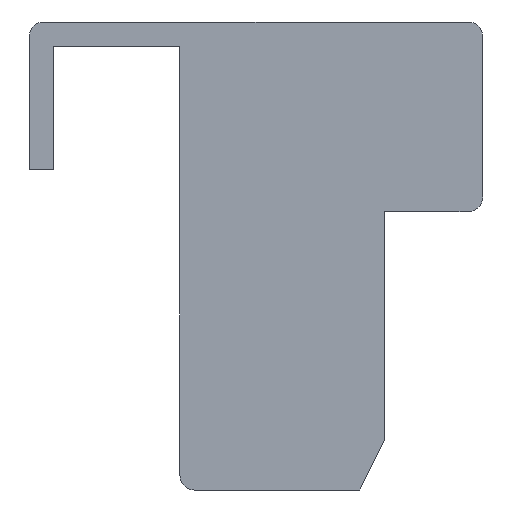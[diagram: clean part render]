
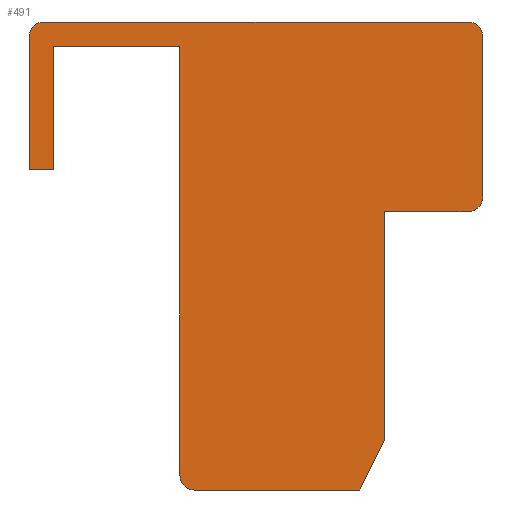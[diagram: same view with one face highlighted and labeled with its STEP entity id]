
A CAD part, left-side view. The second image highlights one B-rep face of the part: STEP entity #491.
In plain terms, the highlighted planar face has unit normal (-1, 0, 0).
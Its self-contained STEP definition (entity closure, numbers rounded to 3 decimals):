
#24=PLANE('',#540);
#48=FACE_OUTER_BOUND('',#76,.T.);
#76=EDGE_LOOP('',(#382,#383,#384,#385,#386,#387,#388,#389,#390,#391,#392,
#393,#394,#395,#396));
#109=LINE('',#735,#166);
#122=LINE('',#770,#179);
#124=LINE('',#774,#181);
#125=LINE('',#775,#182);
#126=LINE('',#777,#183);
#127=LINE('',#781,#184);
#128=LINE('',#785,#185);
#129=LINE('',#787,#186);
#130=LINE('',#789,#187);
#131=LINE('',#791,#188);
#132=LINE('',#792,#189);
#166=VECTOR('',#594,10.);
#179=VECTOR('',#621,10.);
#181=VECTOR('',#625,10.);
#182=VECTOR('',#626,10.);
#183=VECTOR('',#627,10.);
#184=VECTOR('',#630,10.);
#185=VECTOR('',#633,10.);
#186=VECTOR('',#634,10.);
#187=VECTOR('',#635,10.);
#188=VECTOR('',#636,10.);
#189=VECTOR('',#637,10.);
#214=CIRCLE('',#530,3.);
#219=CIRCLE('',#538,3.);
#220=CIRCLE('',#541,3.);
#221=CIRCLE('',#542,3.);
#232=VERTEX_POINT('',#722);
#233=VERTEX_POINT('',#723);
#237=VERTEX_POINT('',#733);
#250=VERTEX_POINT('',#763);
#251=VERTEX_POINT('',#764);
#252=VERTEX_POINT('',#769);
#253=VERTEX_POINT('',#773);
#254=VERTEX_POINT('',#776);
#255=VERTEX_POINT('',#778);
#256=VERTEX_POINT('',#780);
#257=VERTEX_POINT('',#782);
#258=VERTEX_POINT('',#784);
#259=VERTEX_POINT('',#786);
#260=VERTEX_POINT('',#788);
#261=VERTEX_POINT('',#790);
#279=EDGE_CURVE('',#232,#233,#214,.T.);
#285=EDGE_CURVE('',#232,#237,#109,.T.);
#299=EDGE_CURVE('',#250,#251,#219,.T.);
#302=EDGE_CURVE('',#251,#252,#122,.T.);
#304=EDGE_CURVE('',#253,#237,#124,.T.);
#305=EDGE_CURVE('',#252,#253,#125,.T.);
#306=EDGE_CURVE('',#254,#250,#126,.T.);
#307=EDGE_CURVE('',#255,#254,#220,.T.);
#308=EDGE_CURVE('',#256,#255,#127,.T.);
#309=EDGE_CURVE('',#257,#256,#221,.T.);
#310=EDGE_CURVE('',#257,#258,#128,.T.);
#311=EDGE_CURVE('',#259,#258,#129,.T.);
#312=EDGE_CURVE('',#260,#259,#130,.T.);
#313=EDGE_CURVE('',#261,#260,#131,.T.);
#314=EDGE_CURVE('',#233,#261,#132,.T.);
#382=ORIENTED_EDGE('',*,*,#279,.F.);
#383=ORIENTED_EDGE('',*,*,#285,.T.);
#384=ORIENTED_EDGE('',*,*,#304,.F.);
#385=ORIENTED_EDGE('',*,*,#305,.F.);
#386=ORIENTED_EDGE('',*,*,#302,.F.);
#387=ORIENTED_EDGE('',*,*,#299,.F.);
#388=ORIENTED_EDGE('',*,*,#306,.F.);
#389=ORIENTED_EDGE('',*,*,#307,.F.);
#390=ORIENTED_EDGE('',*,*,#308,.F.);
#391=ORIENTED_EDGE('',*,*,#309,.F.);
#392=ORIENTED_EDGE('',*,*,#310,.T.);
#393=ORIENTED_EDGE('',*,*,#311,.F.);
#394=ORIENTED_EDGE('',*,*,#312,.F.);
#395=ORIENTED_EDGE('',*,*,#313,.F.);
#396=ORIENTED_EDGE('',*,*,#314,.F.);
#491=ADVANCED_FACE('',(#48),#24,.T.);
#530=AXIS2_PLACEMENT_3D('',#724,#584,#585);
#538=AXIS2_PLACEMENT_3D('',#765,#615,#616);
#540=AXIS2_PLACEMENT_3D('',#772,#623,#624);
#541=AXIS2_PLACEMENT_3D('',#779,#628,#629);
#542=AXIS2_PLACEMENT_3D('',#783,#631,#632);
#584=DIRECTION('center_axis',(1.,0.,0.));
#585=DIRECTION('ref_axis',(0.,0.707,-0.707));
#594=DIRECTION('',(0.,-1.,0.));
#615=DIRECTION('center_axis',(1.,0.,0.));
#616=DIRECTION('ref_axis',(0.,-0.707,-0.707));
#621=DIRECTION('',(0.,1.,0.));
#623=DIRECTION('center_axis',(-1.,0.,0.));
#624=DIRECTION('ref_axis',(0.,0.,
-1.));
#625=DIRECTION('',(0.,0.447,-0.894));
#626=DIRECTION('',(0.,0.,-1.));
#627=DIRECTION('',(0.,0.,-1.));
#628=DIRECTION('center_axis',(1.,0.,0.));
#629=DIRECTION('ref_axis',(0.,-0.707,0.707));
#630=DIRECTION('',(0.,-1.,0.));
#631=DIRECTION('center_axis',(1.,0.,0.));
#632=DIRECTION('ref_axis',(0.,0.707,0.707));
#633=DIRECTION('',(0.,0.,-1.));
#634=DIRECTION('',(0.,1.,0.));
#635=DIRECTION('',(0.,0.,-1.));
#636=DIRECTION('',(0.,1.,0.));
#637=DIRECTION('',(0.,0.,1.));
#722=CARTESIAN_POINT('',(532.502,676.366,1232.5));
#723=CARTESIAN_POINT('',(532.502,679.366,1235.5));
#724=CARTESIAN_POINT('Origin',(532.502,676.366,1235.5));
#733=CARTESIAN_POINT('',(532.502,642.866,1232.5));
#735=CARTESIAN_POINT('',(532.502,679.366,1232.5));
#763=CARTESIAN_POINT('',(532.502,617.866,1292.));
#764=CARTESIAN_POINT('',(532.502,620.866,1289.));
#765=CARTESIAN_POINT('Origin',(532.502,620.866,1292.));
#769=CARTESIAN_POINT('',(532.502,637.866,1289.));
#770=CARTESIAN_POINT('',(532.502,679.366,1289.));
#772=CARTESIAN_POINT('Origin',(532.502,679.366,1322.5));
#773=CARTESIAN_POINT('',(532.502,637.866,1242.5));
#774=CARTESIAN_POINT('',(532.502,627.266,1263.7));
#775=CARTESIAN_POINT('',(532.502,637.866,1232.5));
#776=CARTESIAN_POINT('',(532.502,617.866,1324.5));
#777=CARTESIAN_POINT('',(532.502,617.866,1322.5));
#778=CARTESIAN_POINT('',(532.502,620.866,1327.5));
#779=CARTESIAN_POINT('Origin',(532.502,620.866,1324.5));
#780=CARTESIAN_POINT('',(532.502,706.966,1327.5));
#781=CARTESIAN_POINT('',(532.502,679.366,1327.5));
#782=CARTESIAN_POINT('',(532.502,709.966,1324.5));
#783=CARTESIAN_POINT('Origin',(532.502,706.966,1324.5));
#784=CARTESIAN_POINT('',(532.502,709.966,1297.5));
#785=CARTESIAN_POINT('',(532.502,709.966,1322.5));
#786=CARTESIAN_POINT('',(532.502,704.966,1297.5));
#787=CARTESIAN_POINT('',(532.502,709.966,1297.5));
#788=CARTESIAN_POINT('',(532.502,704.966,1322.5));
#789=CARTESIAN_POINT('',(532.502,704.966,1322.5));
#790=CARTESIAN_POINT('',(532.502,679.366,1322.5));
#791=CARTESIAN_POINT('',(532.502,679.366,1322.5));
#792=CARTESIAN_POINT('',(532.502,679.366,1232.5));
